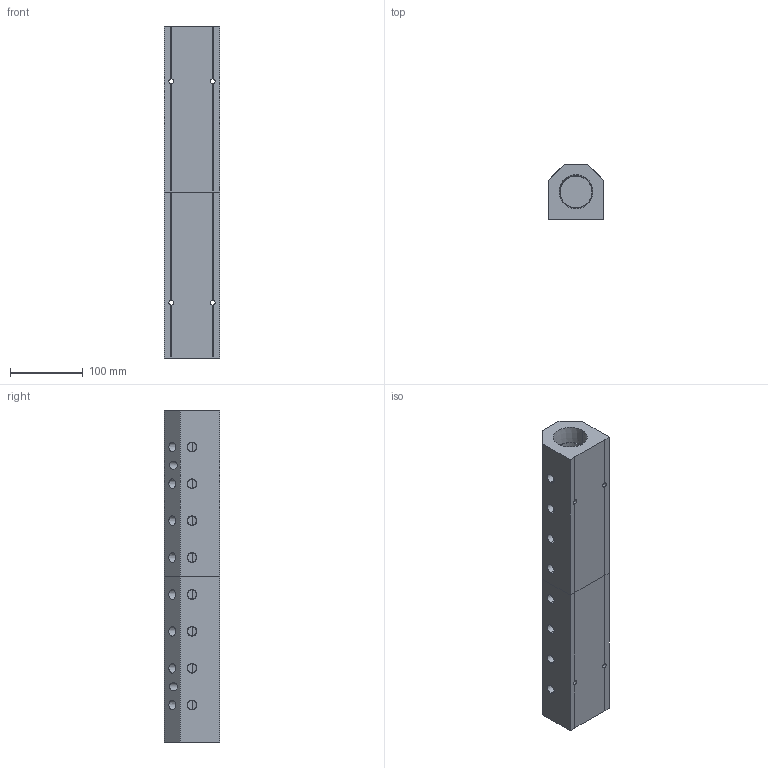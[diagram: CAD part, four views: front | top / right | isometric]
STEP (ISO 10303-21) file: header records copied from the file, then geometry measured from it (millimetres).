
FILE_DESCRIPTION (( 'STEP AP214' ), '1' );
FILE_NAME ('ALM8ABC-N4N24-457RB.step', '2022-02-07T07:52:17', ( '' ), ( '' ), 'SwSTEP 2.0', 'SolidWorks 2020', '' );
FILE_SCHEMA (( 'AUTOMOTIVE_DESIGN' ));
Length unit declared in the file: millimetre
Products named in the file (1): ALM8ABC-N4N24-457RB
Bounding box: 76.2 x 76.2 x 457 mm (x, y, z)
Volume: 1656072.3 mm3; surface area: 226961.7 mm2
Topology: 2 solids, 2 shells, 401 faces, 1068 edges, 704 vertices
Faces by surface type: plane 262, bspline 67, cone 52, cylinder 20
Entity records: 22432 total; most frequent: CARTESIAN_POINT 9033, ORIENTED_EDGE 2136, DIRECTION 1628, EDGE_CURVE 1068, VECTOR 782, LINE 782, VERTEX_POINT 704, EDGE_LOOP 490
